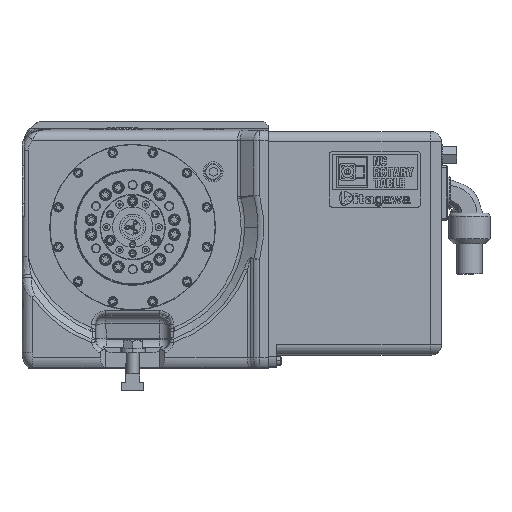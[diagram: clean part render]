
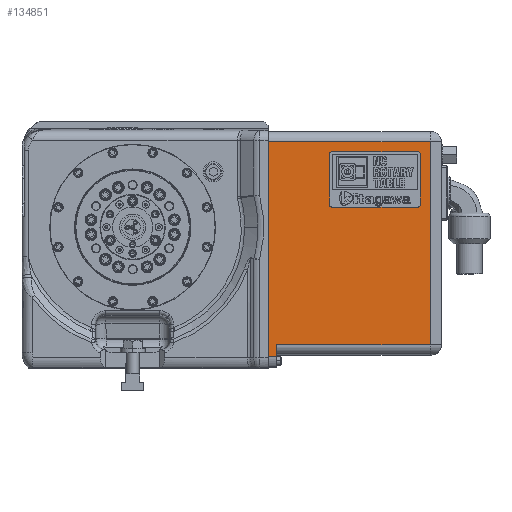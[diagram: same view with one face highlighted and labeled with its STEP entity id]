
A CAD part, top view. The second image highlights one B-rep face of the part: STEP entity #134851.
In plain terms, the highlighted planar face has unit normal (0, 0, 1).
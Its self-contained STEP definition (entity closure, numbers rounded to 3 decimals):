
#1171 = VECTOR ( 'NONE', #151524, 1000. ) ;
#2958 = VECTOR ( 'NONE', #78513, 1000. ) ;
#5991 = VERTEX_POINT ( 'NONE', #159186 ) ;
#6998 = LINE ( 'NONE', #130056, #2958 ) ;
#9301 = VECTOR ( 'NONE', #24441, 1000. ) ;
#14527 = PLANE ( 'NONE',  #105022 ) ;
#17318 = EDGE_LOOP ( 'NONE', ( #95390, #114100, #20848, #61715, #70326, #80575 ) ) ;
#18706 = LINE ( 'NONE', #118554, #152340 ) ;
#20848 = ORIENTED_EDGE ( 'NONE', *, *, #29784, .F. ) ;
#21418 = CARTESIAN_POINT ( 'NONE',  ( 8., 224., 0. ) ) ;
#24441 = DIRECTION ( 'NONE',  ( -1., 0., 0. ) ) ;
#27045 = VECTOR ( 'NONE', #83801, 1000. ) ;
#29784 = EDGE_CURVE ( 'NONE', #58825, #78408, #6998, .T. ) ;
#35566 = LINE ( 'NONE', #21418, #1171 ) ;
#38563 = CARTESIAN_POINT ( 'NONE',  ( 8., 10., 0. ) ) ;
#40722 = CARTESIAN_POINT ( 'NONE',  ( 0., 224., 0. ) ) ;
#40932 = FACE_OUTER_BOUND ( 'NONE', #17318, .T. ) ;
#41019 = VERTEX_POINT ( 'NONE', #78663 ) ;
#57399 = LINE ( 'NONE', #109860, #27045 ) ;
#58825 = VERTEX_POINT ( 'NONE', #147766 ) ;
#61715 = ORIENTED_EDGE ( 'NONE', *, *, #158696, .T. ) ;
#61891 = VERTEX_POINT ( 'NONE', #38563 ) ;
#66559 = CARTESIAN_POINT ( 'NONE',  ( 8., 0., 0. ) ) ;
#68162 = EDGE_CURVE ( 'NONE', #5991, #61891, #57399, .T. ) ;
#70326 = ORIENTED_EDGE ( 'NONE', *, *, #73991, .T. ) ;
#73991 = EDGE_CURVE ( 'NONE', #151927, #41019, #18706, .T. ) ;
#74938 = DIRECTION ( 'NONE',  ( 1., 0., 0. ) ) ;
#78408 = VERTEX_POINT ( 'NONE', #152466 ) ;
#78513 = DIRECTION ( 'NONE',  ( 0., -1., 0. ) ) ;
#78663 = CARTESIAN_POINT ( 'NONE',  ( 0., 10., 0. ) ) ;
#79599 = DIRECTION ( 'NONE',  ( 0., 1., 0. ) ) ;
#80067 = DIRECTION ( 'NONE',  ( 0., -1., 0. ) ) ;
#80575 = ORIENTED_EDGE ( 'NONE', *, *, #124849, .F. ) ;
#83801 = DIRECTION ( 'NONE',  ( 0., -1., 0. ) ) ;
#89013 = CARTESIAN_POINT ( 'NONE',  ( 387.403, 10., 0. ) ) ;
#95390 = ORIENTED_EDGE ( 'NONE', *, *, #68162, .F. ) ;
#105022 = AXIS2_PLACEMENT_3D ( 'NONE', #66559, #157068, #79599 ) ;
#109860 = CARTESIAN_POINT ( 'NONE',  ( 8., 0., 0. ) ) ;
#114100 = ORIENTED_EDGE ( 'NONE', *, *, #138350, .T. ) ;
#118554 = CARTESIAN_POINT ( 'NONE',  ( 0., 0., 0. ) ) ;
#124302 = VECTOR ( 'NONE', #74938, 1000. ) ;
#124849 = EDGE_CURVE ( 'NONE', #61891, #41019, #151009, .T. ) ;
#130056 = CARTESIAN_POINT ( 'NONE',  ( 161., 234., 0. ) ) ;
#134851 = ADVANCED_FACE ( 'NONE', ( #40932 ), #14527, .F. ) ;
#138350 = EDGE_CURVE ( 'NONE', #5991, #78408, #166673, .T. ) ;
#147766 = CARTESIAN_POINT ( 'NONE',  ( 161., 224., 0. ) ) ;
#151009 = LINE ( 'NONE', #89013, #9301 ) ;
#151524 = DIRECTION ( 'NONE',  ( -1., 0., 0. ) ) ;
#151927 = VERTEX_POINT ( 'NONE', #40722 ) ;
#152340 = VECTOR ( 'NONE', #80067, 1000. ) ;
#152466 = CARTESIAN_POINT ( 'NONE',  ( 161., 22., 0. ) ) ;
#157068 = DIRECTION ( 'NONE',  ( 0., 0., -1. ) ) ;
#158696 = EDGE_CURVE ( 'NONE', #58825, #151927, #35566, .T. ) ;
#159186 = CARTESIAN_POINT ( 'NONE',  ( 8., 22., 0. ) ) ;
#165323 = CARTESIAN_POINT ( 'NONE',  ( 8., 22., 0. ) ) ;
#166673 = LINE ( 'NONE', #165323, #124302 ) ;
